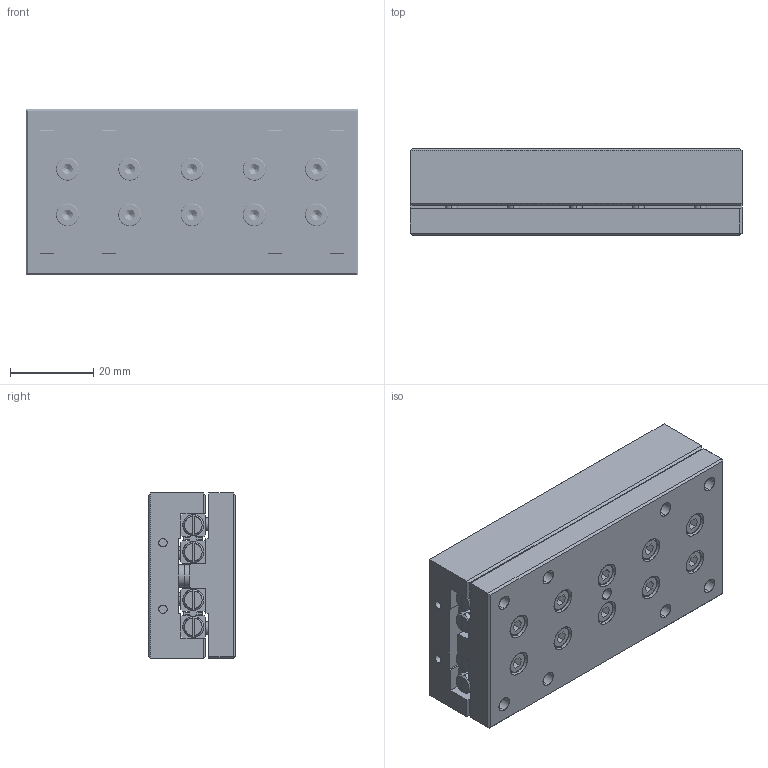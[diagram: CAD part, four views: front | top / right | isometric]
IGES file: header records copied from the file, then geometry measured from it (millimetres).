
Start section: SolidWorks IGES file using analytic representation for surfaces
Global section: file name: C:\Documents and Settings\IanO.IANOHOME\My Documents\Wix and Auto CAD Work\CAD Models\Parametric Models\Auto Models\L1020\L1020_IGES\L1020.040-080.igs; native system: SolidWorks 2009; preprocessor: SolidWorks 2009; author: IanO; date: 110922.162313; units: millimetre
Bounding box: 80 x 21 x 40 mm (x, y, z)
Surface area: 36702.1 mm2 (no closed solid volume)
Topology: 0 solids, 0 shells, 1473 faces, 19304 edges, 19254 vertices
Faces by surface type: bspline 911, revolution 562
